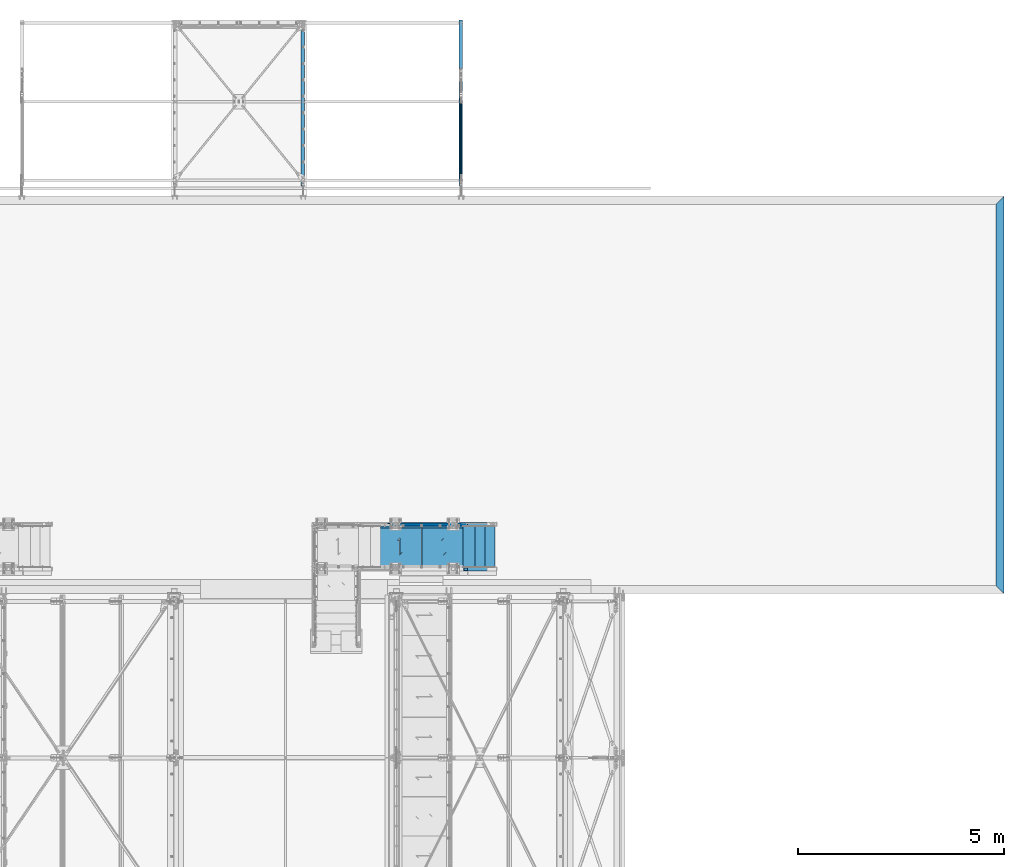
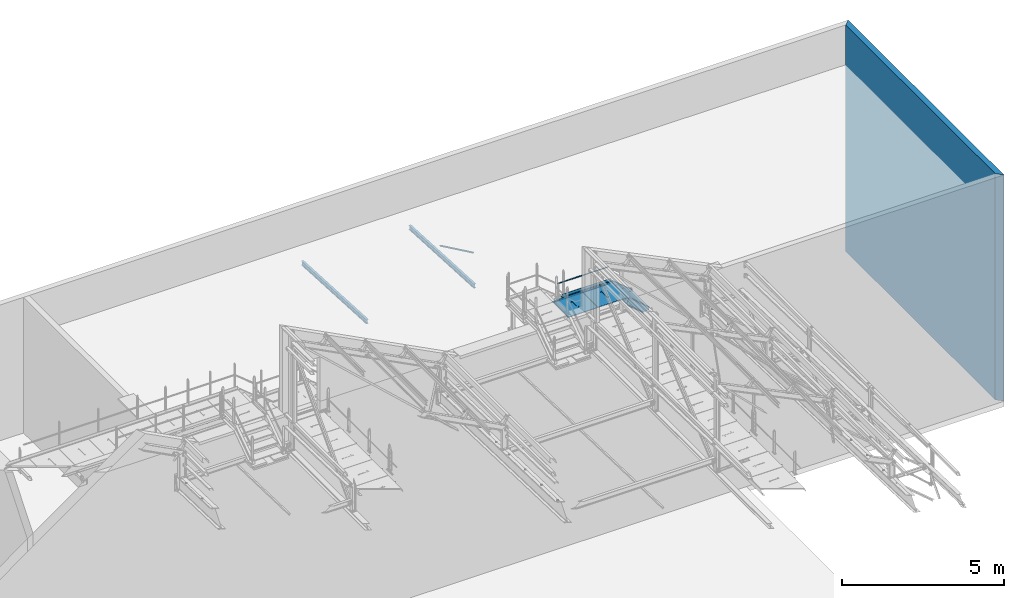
# One storey, part 59 of 362: 12 beams, 3 members, 13 elements without a shape of their own.
"""IFC2X3 building model written with IfcOpenShell, lengths in millimetres."""

from ifc_helpers import new_model, si_unit, frame, frame_2d, origin_with_axes, origin_2d_with_axis, place, context, subcontext, project, spatial, polyline, circle_curve, parameter, trimmed, segment, composite_curve, rectangle, hollow_circle, i_section, l_section, u_section, outline, extrude, boolean, clip, halfspace, material, type_object, element, aggregate, save


model = new_model("IFC2X3")

# Units and contexts
model_context = context("Model", 3, precision=1e-05, world=origin_with_axes())
body_context = subcontext(model_context, "Body", "Model", "MODEL_VIEW")
ifc_project = project(units=[si_unit("LENGTHUNIT", "METRE", prefix="MILLI"), si_unit("AREAUNIT", "SQUARE_METRE"), si_unit("VOLUMEUNIT", "CUBIC_METRE"), si_unit("MASSUNIT", "GRAM", prefix="KILO"), si_unit("TIMEUNIT", "SECOND"), si_unit("PLANEANGLEUNIT", "RADIAN"), si_unit("SOLIDANGLEUNIT", "STERADIAN"), si_unit("THERMODYNAMICTEMPERATUREUNIT", "DEGREE_CELSIUS"), si_unit("LUMINOUSINTENSITYUNIT", "LUMEN")], contexts=[model_context])

# Site, building, storey
site_placement = place(None, origin_with_axes())
site = spatial("IfcSite", under=ifc_project, at=site_placement, Name="Undefined", CompositionType="ELEMENT")
building_placement = place(site_placement, origin_with_axes())
building = spatial("IfcBuilding", under=site, at=building_placement, Name="Undefined", CompositionType="ELEMENT")
storey_placement = place(building_placement, origin_with_axes())
storey = spatial("IfcBuildingStorey", under=building, at=storey_placement, Name="Undefined", CompositionType="ELEMENT", Elevation=0.0)

# Assembly, beams
assembly_1_placement = place(storey_placement, origin_with_axes())
assembly_1 = element("IfcElementAssembly", 1, at=assembly_1_placement, inside=storey, Name="MAIN COURANTE", AssemblyPlace="NOTDEFINED", PredefinedType="NOTDEFINED")
ifc_material_1 = material(Name="Undefined/S235-E24")
beam_type_1 = type_object("IfcBeamType", Name="TUBE-21.3*2", PredefinedType="NOTDEFINED")
beam_1_placement = place(assembly_1_placement, frame((34050.3145397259, 17089.9937511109, 8653.80000001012), z_axis=(0.0, 1.0, 0.0), x_axis=(1.0, 0.0, 0.0)))
beam_1 = element("IfcBeam", 2, at=beam_1_placement, type_object=beam_type_1, material=ifc_material_1, Name="LISSE", ObjectType="TUBE-21.3*2", context=body_context, shape_type="Clipping", body=[
    clip(clip(extrude(hollow_circle(Radius=10.64999962, WallThickness=2.0, at=origin_2d_with_axis()), frame((1828.74844172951, -1.81898940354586e-12, 0.0), z_axis=(-1.0, 0.0, 0.0), x_axis=(0.0, -1.0, 0.0)), (0.0, 0.0, 1.0), 1836.49), halfspace(frame((1821.00987948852, 4.36557456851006e-10, -0.00100506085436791), z_axis=(0.940271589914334, 0.340425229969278, -5.78267025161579e-07), x_axis=(0.0, 0.0, 1.0)), False)), halfspace(frame((3.80609846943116, -10.6499996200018, 0.000112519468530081), z_axis=(0.941671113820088, 0.336534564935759, -5.79127732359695e-07), x_axis=(0.0, 0.0, 1.0)), True)),
])
beam_type_2 = type_object("IfcBeamType", Name="PL100*5", PredefinedType="NOTDEFINED")
beam_2_placement = place(assembly_1_placement, frame((35944.9962475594, 17057.481480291, 8170.00000001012), z_axis=(0.0, 0.0, -1.0), x_axis=(-1.0, 0.0, 0.0)))
beam_2 = element("IfcBeam", 3, at=beam_2_placement, type_object=beam_type_2, material=ifc_material_1, Name="PLINTHE", ObjectType="PL100*5", context=body_context, shape_type="SweptSolid", body=[
    extrude(rectangle(XDim=5.0, YDim=100.0, at=origin_2d_with_axis()), frame((1734.99407492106, 0.0, 0.0), z_axis=(-1.0, 0.0, 0.0), x_axis=(0.0, -1.0, 0.0)), (0.0, 0.0, 1.0), 1734.99),
])
aggregate(assembly_1, [beam_1, beam_2])

# Assembly, beam
assembly_2_placement = place(storey_placement, origin_with_axes())
assembly_2 = element("IfcElementAssembly", 4, at=assembly_2_placement, inside=storey, Name="PALIER", AssemblyPlace="NOTDEFINED", PredefinedType="NOTDEFINED")
beam_type_3 = type_object("IfcBeamType", Name="PL30*990", PredefinedType="NOTDEFINED")
beam_3_placement = place(assembly_2_placement, frame((35944.9999902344, 16530.0012856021, 8094.9999407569), z_axis=(0.0, 1.0, 0.0), x_axis=(-1.0, 0.0, 0.0)))
beam_3 = element("IfcBeam", 5, at=beam_3_placement, type_object=beam_type_3, material=ifc_material_1, Name="PALIER", ObjectType="PL30*990", context=body_context, shape_type="CSG", body=[
    boolean("DIFFERENCE", extrude(rectangle(XDim=30.0, YDim=990.0, at=origin_2d_with_axis()), frame((1050.0, 0.0, 0.0), z_axis=(-1.0, 0.0, 0.0), x_axis=(0.0, -1.0, 0.0)), (0.0, 0.0, 1.0), 1050.0), extrude(outline(polyline([(0.0, 0.0), (87.0678024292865, -7.27595761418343e-12), (-195.774902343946, 282.842712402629), (-132.842712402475, 282.842712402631), (-132.842712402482, 292.84271240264), (-219.917037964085, 292.84271240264), (62.9256706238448, 10.0000000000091), (-1.81898940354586e-10, 10.0000000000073), (0.0, 0.0)])), frame((468.433764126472, 17.5, -150.504124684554), z_axis=(0.0, -1.0, 0.0), x_axis=(0.707106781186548, 0.0, -0.707106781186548)), (0.0, 0.0, 1.0), 35.0)),
])
aggregate(assembly_2, [beam_3])

assembly_3_placement = place(storey_placement, origin_with_axes())
assembly_3 = element("IfcElementAssembly", 6, at=assembly_3_placement, inside=storey, Name="PALIER", AssemblyPlace="NOTDEFINED", PredefinedType="NOTDEFINED")
beam_4_placement = place(assembly_3_placement, frame((34884.9999902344, 16530.0012856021, 8094.9999407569), z_axis=(0.0, 1.0, 0.0), x_axis=(-1.0, 0.0, 0.0)))
beam_4 = element("IfcBeam", 7, at=beam_4_placement, type_object=beam_type_3, material=ifc_material_1, Name="PALIER", ObjectType="PL30*990", context=body_context, shape_type="CSG", body=[
    boolean("DIFFERENCE", extrude(rectangle(XDim=30.0, YDim=990.0, at=origin_2d_with_axis()), frame((1050.0, 0.0, 0.0), z_axis=(-1.0, 0.0, 0.0), x_axis=(0.0, -1.0, 0.0)), (0.0, 0.0, 1.0), 1050.0), extrude(outline(polyline([(0.0, 0.0), (87.0678024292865, -7.27595761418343e-12), (-195.774902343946, 282.842712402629), (-132.842712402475, 282.842712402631), (-132.842712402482, 292.84271240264), (-219.917037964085, 292.84271240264), (62.9256706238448, 10.0000000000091), (-1.81898940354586e-10, 10.0000000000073), (0.0, 0.0)])), frame((468.433764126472, 17.5, -150.504124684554), z_axis=(0.0, -1.0, 0.0), x_axis=(0.707106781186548, 0.0, -0.707106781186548)), (0.0, 0.0, 1.0), 35.0)),
])
aggregate(assembly_3, [beam_4])

assembly_4_placement = place(storey_placement, origin_with_axes())
assembly_4 = element("IfcElementAssembly", 8, at=assembly_4_placement, inside=storey, Name="SUPPORT", AssemblyPlace="NOTDEFINED", PredefinedType="NOTDEFINED")
beam_type_4 = type_object("IfcBeamType", Name="L50*5", PredefinedType="NOTDEFINED")
beam_5_placement = place(assembly_4_placement, frame((35894.9999902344, 17004.9999136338, 8054.9999407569), z_axis=(0.0, 0.0, -1.0), x_axis=(-1.0, 0.0, 0.0)))
beam_5 = element("IfcBeam", 9, at=beam_5_placement, type_object=beam_type_4, material=ifc_material_1, Name="SUPPORT", ObjectType="L50*5", context=body_context, shape_type="SweptSolid", body=[
    extrude(l_section(Depth=50.0, Width=50.0, Thickness=5.0, FilletRadius=7.0, EdgeRadius=3.5, at=origin_2d_with_axis()), frame((2009.99999989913, 0.0, 0.0), z_axis=(-1.0, 0.0, 0.0), x_axis=(0.0, -1.0, 0.0)), (0.0, 0.0, 1.0), 2010.0),
])
aggregate(assembly_4, [beam_5])

# Assembly, member
assembly_5_placement = place(storey_placement, origin_with_axes())
assembly_5 = element("IfcElementAssembly", 10, at=assembly_5_placement, inside=storey, AssemblyPlace="NOTDEFINED", PredefinedType="NOTDEFINED")
ifc_material_2 = material(Name="Undefined/S275-E28")
member_type_1 = type_object("IfcMemberType", Name="UPN260", PredefinedType="NOTDEFINED")
member_1_placement = place(assembly_5_placement, frame((36799.7706127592, 15984.9996684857, 7278.46901234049), z_axis=(-0.640184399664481, 0.0, -0.768221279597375), x_axis=(-0.768221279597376, 0.0, 0.640184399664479)))
member_1 = element("IfcMember", 11, at=member_1_placement, type_object=member_type_1, material=ifc_material_2, Name="LIMON", ObjectType="UPN260", context=body_context, shape_type="Clipping", body=[
    clip(clip(clip(extrude(u_section(Depth=260.0, FlangeWidth=90.0, WebThickness=10.0, FlangeThickness=14.0, FilletRadius=14.0, EdgeRadius=7.0, FlangeSlope=0.0798299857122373, at=origin_2d_with_axis()), frame((1237.09223205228, 1.81898940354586e-12, -3.70665122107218e-12), z_axis=(-1.0, 0.0, 0.0), x_axis=(0.0, -1.0, 0.0)), (0.0, 0.0, 1.0), 1237.09), halfspace(frame((245.689170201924, 45.0000000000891, -149.914659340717), z_axis=(-0.768221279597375, 0.0, -0.640184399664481), x_axis=(0.0, 1.0, 0.0)), False)), halfspace(frame((-72.2625156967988, 45.0000000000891, -189.778996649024), z_axis=(-0.640184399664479, 0.0, 0.768221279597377), x_axis=(0.0, 1.0, 0.0)), False)), halfspace(frame((1048.75984968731, 45.0000000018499, 130.000000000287), z_axis=(0.940271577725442, 0.0, 0.340425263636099), x_axis=(0.0, 1.0, 0.0)), False)),
])
aggregate(assembly_5, [member_1])

# Assembly, member, beam
assembly_6_placement = place(storey_placement, origin_with_axes())
assembly_6 = element("IfcElementAssembly", 12, at=assembly_6_placement, inside=storey, AssemblyPlace="NOTDEFINED", PredefinedType="NOTDEFINED")
member_2_placement = place(assembly_6_placement, frame((35921.7760183, 17074.9996684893, 8010.13117439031), z_axis=(-0.640184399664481, 0.0, -0.768221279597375), x_axis=(0.768221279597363, 0.0, -0.640184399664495)))
member_2 = element("IfcMember", 13, at=member_2_placement, type_object=member_type_1, material=ifc_material_2, Name="LIMON", ObjectType="UPN260", context=body_context, shape_type="Clipping", body=[
    clip(clip(clip(extrude(u_section(Depth=260.0, FlangeWidth=90.0, WebThickness=10.0, FlangeThickness=14.0, FilletRadius=14.0, EdgeRadius=7.0, FlangeSlope=0.0798299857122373, at=origin_2d_with_axis()), frame((1142.89283280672, 0.0, 1.26886593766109e-13), z_axis=(-1.0, 0.0, 0.0), x_axis=(0.0, -1.0, 0.0)), (0.0, 0.0, 1.0), 1237.09), halfspace(frame((897.20366260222, 45.0, -149.914659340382), z_axis=(0.768221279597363, 0.0, -0.640184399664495), x_axis=(0.640184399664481, 0.0, 0.768221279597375)), False)), halfspace(frame((1215.15534850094, 45.0, -189.778996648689), z_axis=(0.640184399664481, 0.0, 0.768221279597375), x_axis=(-0.768221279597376, 0.0, 0.640184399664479)), False)), halfspace(frame((94.1329831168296, 1045.00000000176, 130.000000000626), z_axis=(-0.940271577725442, 0.0, 0.340425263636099), x_axis=(0.0, -1.0, 0.0)), False)),
])
beam_type_5 = type_object("IfcBeamType", Name="UPN260", PredefinedType="NOTDEFINED")
beam_6_placement = place(assembly_6_placement, frame((34186.0289487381, 17074.9974696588, 7980.00020022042), z_axis=(0.0, 0.0, -1.0), x_axis=(0.999999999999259, 1.20900000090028e-06, -1.42999999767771e-07)))
beam_6 = element("IfcBeam", 14, at=beam_6_placement, type_object=beam_type_5, material=ifc_material_2, Name="LIMON", ObjectType="UPN260", context=body_context, shape_type="Clipping", body=[
    clip(clip(extrude(u_section(Depth=260.0, FlangeWidth=90.0, WebThickness=10.0, FlangeThickness=14.0, FilletRadius=14.0, EdgeRadius=7.0, FlangeSlope=0.0798299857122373, at=origin_2d_with_axis()), frame((1866.36594337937, -9.86806740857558e-20, 4.94022951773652e-20), z_axis=(-1.0, 0.0, 0.0), x_axis=(0.0, -1.0, 0.0)), (0.0, 0.0, 1.0), 2007.29), halfspace(frame((1818.9697595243, 1045.00000030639, -130.000000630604), z_axis=(0.940271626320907, 1.13678839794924e-06, 0.340425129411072), x_axis=(1.83599999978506e-06, -0.999999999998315, 0.0)), False)), halfspace(frame((-0.00120920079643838, 1044.99780119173, -130.000000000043), z_axis=(0.94167098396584, 1.13848022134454e-06, 0.336534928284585), x_axis=(1.83599999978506e-06, -0.999999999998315, 0.0)), True)),
])
aggregate(assembly_6, [member_2, beam_6])

# Assembly, beam
assembly_7_placement = place(storey_placement, origin_with_axes())
assembly_7 = element("IfcElementAssembly", 15, at=assembly_7_placement, inside=storey, Name="MARCHE", AssemblyPlace="NOTDEFINED", PredefinedType="NOTDEFINED")
beam_type_6 = type_object("IfcBeamType", Name="PL30*994", PredefinedType="NOTDEFINED")
beam_7_placement = place(assembly_7_placement, frame((36664.9999902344, 16530.0012856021, 7495.0), z_axis=(0.0, 1.0, 0.0), x_axis=(-1.0, 0.0, 0.0)))
beam_7 = element("IfcBeam", 16, at=beam_7_placement, type_object=beam_type_6, material=ifc_material_1, Name="MARCHE", ObjectType="PL30*994", context=body_context, shape_type="SweptSolid", body=[
    extrude(rectangle(XDim=30.0, YDim=994.0, at=origin_2d_with_axis()), frame((290.0, 0.0, 0.0), z_axis=(-1.0, 0.0, 0.0), x_axis=(0.0, -1.0, 0.0)), (0.0, 0.0, 1.0), 290.0),
])
aggregate(assembly_7, [beam_7])

assembly_8_placement = place(storey_placement, origin_with_axes())
assembly_8 = element("IfcElementAssembly", 17, at=assembly_8_placement, inside=storey, Name="MARCHE", AssemblyPlace="NOTDEFINED", PredefinedType="NOTDEFINED")
beam_8_placement = place(assembly_8_placement, frame((36424.9999902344, 16530.0012856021, 7695.0), z_axis=(0.0, 1.0, 0.0), x_axis=(-1.0, 0.0, 0.0)))
beam_8 = element("IfcBeam", 18, at=beam_8_placement, type_object=beam_type_6, material=ifc_material_1, Name="MARCHE", ObjectType="PL30*994", context=body_context, shape_type="SweptSolid", body=[
    extrude(rectangle(XDim=30.0, YDim=994.0, at=origin_2d_with_axis()), frame((290.0, 0.0, 0.0), z_axis=(-1.0, 0.0, 0.0), x_axis=(0.0, -1.0, 0.0)), (0.0, 0.0, 1.0), 290.0),
])
aggregate(assembly_8, [beam_8])

assembly_9_placement = place(storey_placement, origin_with_axes())
assembly_9 = element("IfcElementAssembly", 19, at=assembly_9_placement, inside=storey, Name="MARCHE", AssemblyPlace="NOTDEFINED", PredefinedType="NOTDEFINED")
beam_9_placement = place(assembly_9_placement, frame((36184.9999902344, 16530.0012856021, 7894.9999407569), z_axis=(0.0, 1.0, 0.0), x_axis=(-1.0, 0.0, 0.0)))
beam_9 = element("IfcBeam", 20, at=beam_9_placement, type_object=beam_type_6, material=ifc_material_1, Name="MARCHE", ObjectType="PL30*994", context=body_context, shape_type="SweptSolid", body=[
    extrude(rectangle(XDim=30.0, YDim=994.0, at=origin_2d_with_axis()), frame((290.0, 0.0, 0.0), z_axis=(-1.0, 0.0, 0.0), x_axis=(0.0, -1.0, 0.0)), (0.0, 0.0, 1.0), 290.0),
])
aggregate(assembly_9, [beam_9])

# Assembly, member
assembly_10_placement = place(storey_placement, origin_with_axes())
assembly_10 = element("IfcElementAssembly", 21, at=assembly_10_placement, inside=storey, AssemblyPlace="NOTDEFINED", PredefinedType="NOTDEFINED")
member_type_2 = type_object("IfcMemberType", Name="TUBE-60.3*3.2", PredefinedType="NOTDEFINED")
member_3_placement = place(assembly_10_placement, frame((35852.9999703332, 25040.0000673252, 4330.0), z_axis=(-1.0, 0.0, 0.0), x_axis=(0.0, 0.902342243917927, -0.431020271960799)))
member_3 = element("IfcMember", 22, at=member_3_placement, type_object=member_type_2, material=ifc_material_1, Name="BUTON", ObjectType="TUBE-60.3*3.2", context=body_context, shape_type="CSG", body=[
    boolean("DIFFERENCE", boolean("DIFFERENCE", boolean("DIFFERENCE", boolean("DIFFERENCE", extrude(hollow_circle(Radius=30.14999962, WallThickness=3.200000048, at=origin_2d_with_axis()), frame((3314.61716229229, 0.0, 0.0), z_axis=(-1.0, 0.0, 0.0), x_axis=(0.0, -1.0, 0.0)), (0.0, 0.0, 1.0), 3314.62), extrude(outline(composite_curve([segment(polyline([(0.0, 0.0), (80.00000000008, 8.00355337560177e-11), (80.0000000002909, 219.999999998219)]), True, "CONTINUOUS"), segment(trimmed(circle_curve(frame_2d((40.0000000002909, 219.999999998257), x_axis=(1.0, 0.0)), 40.0), [parameter(0.0)], [parameter(1.57079632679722)], True, "PARAMETER"), True, "CONTINUOUS"), segment(trimmed(circle_curve(frame_2d((40.0000000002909, 219.999999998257), x_axis=(0.0, 1.0)), 40.0), [parameter(0.0)], [parameter(1.57079632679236)], True, "PARAMETER"), True, "CONTINUOUS"), segment(polyline([(2.58576339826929e-10, 219.999999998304), (0.0, 0.0)]), True, "CONTINUOUS")], self_intersect=True)), frame((542.056071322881, -39.9999999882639, -5.00000007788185), z_axis=(0.0, 0.0, 1.0), x_axis=(0.0, 1.0, 0.0)), (0.0, 0.0, 1.0), 10.0)), extrude(outline(composite_curve([segment(polyline([(0.0, 0.0), (80.00000000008, 8.00355337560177e-11), (80.0000000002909, 219.999999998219)]), True, "CONTINUOUS"), segment(trimmed(circle_curve(frame_2d((40.0000000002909, 219.999999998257), x_axis=(1.0, 0.0)), 40.0), [parameter(0.0)], [parameter(1.57079632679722)], True, "PARAMETER"), True, "CONTINUOUS"), segment(trimmed(circle_curve(frame_2d((40.0000000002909, 219.999999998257), x_axis=(0.0, 1.0)), 40.0), [parameter(0.0)], [parameter(1.57079632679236)], True, "PARAMETER"), True, "CONTINUOUS"), segment(polyline([(2.58576339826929e-10, 219.999999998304), (0.0, 0.0)]), True, "CONTINUOUS")], self_intersect=True)), frame((2534.92453033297, -39.9999999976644, 5.00000035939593), z_axis=(0.0, 0.0, -1.0), x_axis=(0.0, 1.0, 0.0)), (0.0, 0.0, 1.0), 10.0)), halfspace(frame((422.056068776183, 30.14999962, -30.14999962), z_axis=(-1.0, 0.0, 0.0), x_axis=(0.0, 0.0, 1.0)), False)), halfspace(frame((2654.92452778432, -30.14999962, -30.14999962), z_axis=(1.0, 0.0, 0.0), x_axis=(0.0, 0.0, 1.0)), False)),
])
aggregate(assembly_10, [member_3])

# Assembly, beam
assembly_11_placement = place(storey_placement, origin_with_axes())
assembly_11 = element("IfcElementAssembly", 23, at=assembly_11_placement, inside=storey, Name="POUTRE", AssemblyPlace="NOTDEFINED", PredefinedType="REINFORCEMENT_UNIT")
ifc_material_3 = material(Name="CONCRETE/C25/30")
beam_type_7 = type_object("IfcBeamType", Name="8550*200", PredefinedType="NOTDEFINED")
beam_10_placement = place(assembly_11_placement, frame((48932.9999999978, 15389.9999999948, 4275.0), z_axis=(0.0, 0.0, 1.0), x_axis=(0.0, 1.0, 0.0)))
beam_10 = element("IfcBeam", 24, at=beam_10_placement, type_object=beam_type_7, material=ifc_material_3, Name="POUTRE", ObjectType="8550*200", context=body_context, shape_type="Clipping", body=[
    clip(clip(extrude(rectangle(XDim=200.0, YDim=8550.0, at=origin_2d_with_axis()), frame((9752.0002879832, 0.0, 0.0), z_axis=(-1.0, 0.0, 0.0), x_axis=(0.0, -1.0, 0.0)), (0.0, 0.0, 1.0), 9854.0), halfspace(frame((9650.0001439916, -99.9998560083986, -4275.0), z_axis=(0.707106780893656, 0.707106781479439, 2.92893673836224e-10), x_axis=(0.0, 0.0, 1.0)), False)), halfspace(frame((200.000153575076, 100.000729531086, -4275.0), z_axis=(-0.707106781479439, 0.707106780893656, 2.92893673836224e-10), x_axis=(0.0, 0.0, 1.0)), False)),
])
aggregate(assembly_11, [beam_10])

assembly_12_placement = place(storey_placement, origin_with_axes())
assembly_12 = element("IfcElementAssembly", 25, at=assembly_12_placement, inside=storey, Name="TRAVERSE", AssemblyPlace="NOTDEFINED", PredefinedType="NOTDEFINED")
beam_type_8 = type_object("IfcBeamType", Name="IPE160", PredefinedType="NOTDEFINED")
beam_11_placement = place(assembly_12_placement, frame((35842.9999703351, 25285.8152607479, 2965.01428514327), z_axis=(-3.30331196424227e-10, 0.0523092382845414, 0.998630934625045), x_axis=(-6.99999093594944e-09, 0.998630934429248, -0.0523092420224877)))
beam_11 = element("IfcBeam", 26, at=beam_11_placement, type_object=beam_type_8, material=ifc_material_2, Name="TRAVERSE", ObjectType="IPE160", context=body_context, shape_type="Clipping", body=[
    clip(clip(extrude(i_section(OverallWidth=82.0, OverallDepth=160.0, WebThickness=5.0, FlangeThickness=7.400000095, FilletRadius=9.0, at=origin_2d_with_axis()), frame((4048.18022580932, -1.1706936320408e-20, 0.0), z_axis=(-1.0, 0.0, 0.0), x_axis=(0.0, -1.0, 0.0)), (0.0, 0.0, 1.0), 4052.45), halfspace(frame((4043.90593900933, -4.63187461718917e-07, -80.0000007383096), z_axis=(-0.998630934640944, 9.89046762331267e-10, -0.0523092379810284), x_axis=(0.0, -1.0, 0.0)), True)), halfspace(frame((4.69101107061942, -6.83940015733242e-09, -9.5556684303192), z_axis=(-0.998630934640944, 9.89046762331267e-10, -0.0523092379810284), x_axis=(0.0, -1.0, 0.0)), False)),
])
aggregate(assembly_12, [beam_11])

assembly_13_placement = place(storey_placement, origin_with_axes())
assembly_13 = element("IfcElementAssembly", 27, at=assembly_13_placement, inside=storey, Name="TRAVERSE", AssemblyPlace="NOTDEFINED", PredefinedType="NOTDEFINED")
beam_12_placement = place(assembly_13_placement, frame((32002.9999703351, 25285.8152609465, 2965.01428514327), z_axis=(-3.30331196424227e-10, 0.0523092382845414, 0.998630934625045), x_axis=(-6.99999093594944e-09, 0.998630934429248, -0.0523092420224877)))
beam_12 = element("IfcBeam", 28, at=beam_12_placement, type_object=beam_type_8, material=ifc_material_2, Name="TRAVERSE", ObjectType="IPE160", context=body_context, shape_type="Clipping", body=[
    clip(clip(extrude(i_section(OverallWidth=82.0, OverallDepth=160.0, WebThickness=5.0, FlangeThickness=7.400000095, FilletRadius=9.0, at=origin_2d_with_axis()), frame((4048.18022580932, -1.1706936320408e-20, 0.0), z_axis=(-1.0, 0.0, 0.0), x_axis=(0.0, -1.0, 0.0)), (0.0, 0.0, 1.0), 4052.45), halfspace(frame((4043.90593900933, -4.63187461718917e-07, -80.0000007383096), z_axis=(-0.998630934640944, 9.89046762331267e-10, -0.0523092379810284), x_axis=(0.0, -1.0, 0.0)), True)), halfspace(frame((4.69101107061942, -6.83940015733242e-09, -9.5556684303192), z_axis=(-0.998630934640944, 9.89046762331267e-10, -0.0523092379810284), x_axis=(0.0, -1.0, 0.0)), False)),
])
aggregate(assembly_13, [beam_12])

save(model, "model.ifc")
